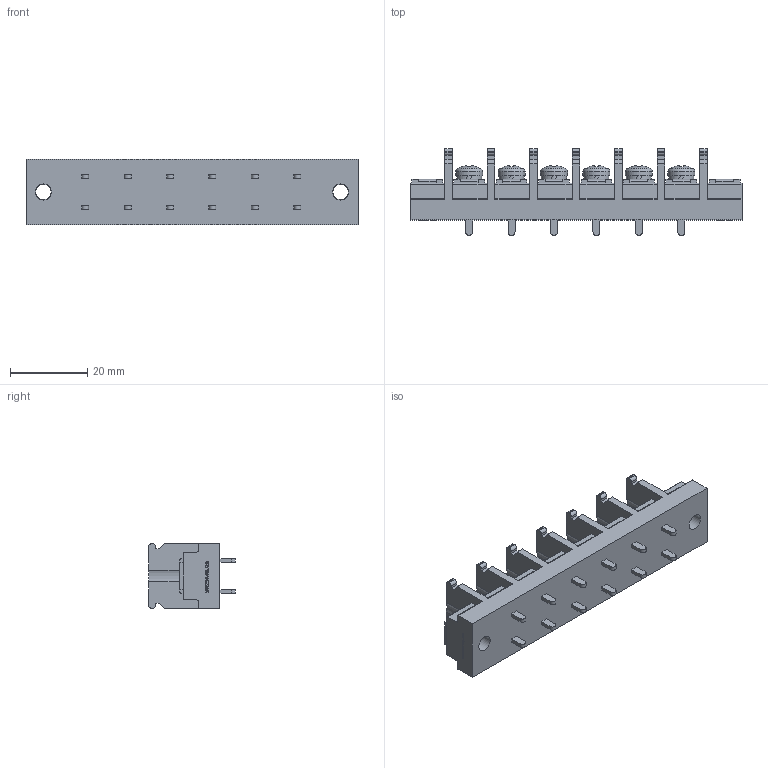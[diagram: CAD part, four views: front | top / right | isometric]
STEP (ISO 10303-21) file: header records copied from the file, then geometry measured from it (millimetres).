
FILE_DESCRIPTION(/* description */ ('Alibre Inc.'),/* implementation_level */ '2;1');
FILE_NAME(/* name */ 'export0',/* time_stamp */ '2015-10-19T19:49:48+09:00',/* author */ (''),/* organization */ (''),/* preprocessor_version */ 'ST-DEVELOPER v14',/* originating_system */ 'Alibre',/* authorisation */ '');
FILE_SCHEMA (('CONFIG_CONTROL_DESIGN'));
Length unit declared in the file: centimetre
Products named in the file (1): ID_1
Bounding box: 86 x 22.5 x 17 mm (x, y, z)
Volume: 15416.6 mm3; surface area: 8843.1 mm2
Topology: 1 solids, 1 shells, 924 faces, 2546 edges, 1692 vertices
Faces by surface type: plane 654, cylinder 124, bspline 104, cone 24, torus 12, sphere 6
Full cylindrical faces by diameter (mm): 4 x8, 4.2 x2, 6.5 x6, 7 x6
Entity records: 28451 total; most frequent: CARTESIAN_POINT 6188, ORIENTED_EDGE 4996, DIRECTION 3617, EDGE_CURVE 2498, VECTOR 1807, LINE 1807, VERTEX_POINT 1672, AXIS2_PLACEMENT_3D 1221
